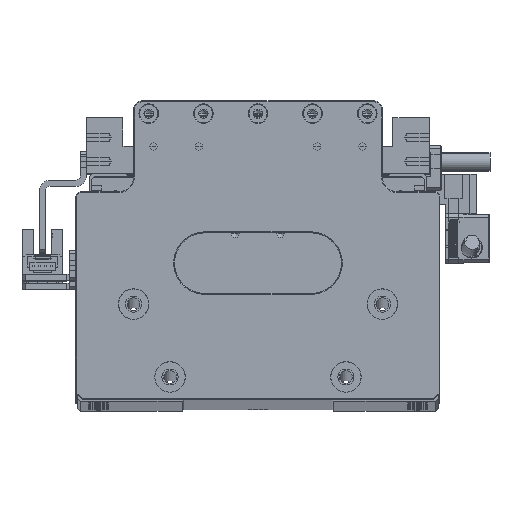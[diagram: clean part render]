
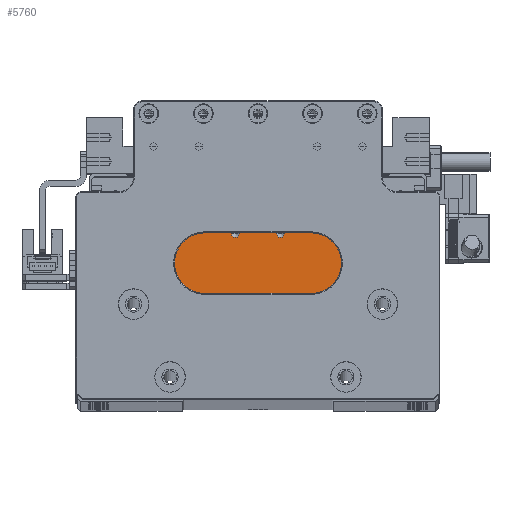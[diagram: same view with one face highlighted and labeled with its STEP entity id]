
A CAD part, top view. The second image highlights one B-rep face of the part: STEP entity #5760.
In plain terms, the highlighted planar face has unit normal (0, 0, 1).
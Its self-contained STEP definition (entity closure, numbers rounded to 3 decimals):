
#433 = ORIENTED_EDGE ( 'NONE', *, *, #34916, .T. ) ;
#437 = CARTESIAN_POINT ( 'NONE',  ( -29.8, 32.2, 66.894 ) ) ;
#939 = ORIENTED_EDGE ( 'NONE', *, *, #69099, .T. ) ;
#1672 = CIRCLE ( 'NONE', #108248, 1.25 ) ;
#1941 = DIRECTION ( 'NONE',  ( 0., 0., -1. ) ) ;
#2471 = CARTESIAN_POINT ( 'NONE',  ( 7.5, 32.2, 66.894 ) ) ;
#5604 = ORIENTED_EDGE ( 'NONE', *, *, #35089, .T. ) ;
#5722 = DIRECTION ( 'NONE',  ( 0., -1., 0. ) ) ;
#5760 = ADVANCED_FACE ( 'NONE', ( #65442, #41097, #89729 ), #25901, .T. ) ;
#5977 = VERTEX_POINT ( 'NONE', #19321 ) ;
#7257 = EDGE_LOOP ( 'NONE', ( #5604, #433, #94701, #21157, #73063, #56431, #939, #30576 ) ) ;
#7410 = CARTESIAN_POINT ( 'NONE',  ( 0., 40.2, 66.894 ) ) ;
#8407 = EDGE_CURVE ( 'NONE', #92155, #116785, #9850, .T. ) ;
#9192 = CARTESIAN_POINT ( 'NONE',  ( -29.8, 40.2, 66.894 ) ) ;
#9850 = CIRCLE ( 'NONE', #19468, 1.25 ) ;
#11309 = CARTESIAN_POINT ( 'NONE',  ( 6.25, 32.2, 66.894 ) ) ;
#11685 = DIRECTION ( 'NONE',  ( 1., 0., 0. ) ) ;
#12771 = VERTEX_POINT ( 'NONE', #40813 ) ;
#16349 = EDGE_CURVE ( 'NONE', #39140, #116623, #1672, .T. ) ;
#16951 = EDGE_CURVE ( 'NONE', #116785, #92155, #99140, .T. ) ;
#17191 = VERTEX_POINT ( 'NONE', #78846 ) ;
#18015 = VERTEX_POINT ( 'NONE', #59282 ) ;
#19321 = CARTESIAN_POINT ( 'NONE',  ( -18.5, 40., 66.894 ) ) ;
#19468 = AXIS2_PLACEMENT_3D ( 'NONE', #51270, #115368, #60469 ) ;
#19578 = CARTESIAN_POINT ( 'NONE',  ( -18.5, 40.2, 66.894 ) ) ;
#19724 = CARTESIAN_POINT ( 'NONE',  ( 29.8, 40.2, 66.894 ) ) ;
#20177 = CIRCLE ( 'NONE', #93906, 1.25 ) ;
#21157 = ORIENTED_EDGE ( 'NONE', *, *, #117066, .T. ) ;
#21676 = VECTOR ( 'NONE', #96251, 1000. ) ;
#23345 = CARTESIAN_POINT ( 'NONE',  ( -8.75, 32.2, 66.894 ) ) ;
#24300 = EDGE_CURVE ( 'NONE', #12771, #74633, #91861, .T. ) ;
#25901 = PLANE ( 'NONE',  #113750 ) ;
#26624 = ORIENTED_EDGE ( 'NONE', *, *, #16349, .T. ) ;
#27638 = CARTESIAN_POINT ( 'NONE',  ( 18.5, 40.2, 66.894 ) ) ;
#28914 = DIRECTION ( 'NONE',  ( 0., 1., 0. ) ) ;
#28953 = CARTESIAN_POINT ( 'NONE',  ( 8.75, 32.2, 66.894 ) ) ;
#30446 = CARTESIAN_POINT ( 'NONE',  ( 29.8, 0.2, 66.894 ) ) ;
#30576 = ORIENTED_EDGE ( 'NONE', *, *, #85952, .T. ) ;
#30774 = CARTESIAN_POINT ( 'NONE',  ( 0., 40., 66.894 ) ) ;
#32737 = LINE ( 'NONE', #67515, #78594 ) ;
#32843 = EDGE_LOOP ( 'NONE', ( #26624, #62385 ) ) ;
#33045 = DIRECTION ( 'NONE',  ( -1., 0., 0. ) ) ;
#34916 = EDGE_CURVE ( 'NONE', #5977, #17191, #43712, .T. ) ;
#35089 = EDGE_CURVE ( 'NONE', #70816, #5977, #50822, .T. ) ;
#35161 = DIRECTION ( 'NONE',  ( 1., 0., 0. ) ) ;
#39094 = VERTEX_POINT ( 'NONE', #437 ) ;
#39140 = VERTEX_POINT ( 'NONE', #28953 ) ;
#39209 = LINE ( 'NONE', #27638, #85034 ) ;
#40813 = CARTESIAN_POINT ( 'NONE',  ( -29.8, 0.2, 66.894 ) ) ;
#41097 = FACE_BOUND ( 'NONE', #32843, .T. ) ;
#41449 = CARTESIAN_POINT ( 'NONE',  ( -30., 0.2, 66.894 ) ) ;
#43712 = LINE ( 'NONE', #19578, #83789 ) ;
#44392 = DIRECTION ( 'NONE',  ( 0., 0., -1. ) ) ;
#47156 = LINE ( 'NONE', #19724, #68580 ) ;
#47977 = VECTOR ( 'NONE', #94853, 1000. ) ;
#50822 = LINE ( 'NONE', #30774, #47977 ) ;
#51270 = CARTESIAN_POINT ( 'NONE',  ( -7.5, 32.2, 66.894 ) ) ;
#56431 = ORIENTED_EDGE ( 'NONE', *, *, #107072, .T. ) ;
#56974 = CARTESIAN_POINT ( 'NONE',  ( -7.5, 32.2, 66.894 ) ) ;
#59021 = CARTESIAN_POINT ( 'NONE',  ( -6.25, 32.2, 66.894 ) ) ;
#59282 = CARTESIAN_POINT ( 'NONE',  ( 18.5, 32.2, 66.894 ) ) ;
#60469 = DIRECTION ( 'NONE',  ( 1., 0., 0. ) ) ;
#62385 = ORIENTED_EDGE ( 'NONE', *, *, #104412, .T. ) ;
#65276 = DIRECTION ( 'NONE',  ( 0., -1., 0. ) ) ;
#65442 = FACE_OUTER_BOUND ( 'NONE', #7257, .T. ) ;
#66161 = DIRECTION ( 'NONE',  ( 1., 0., 0. ) ) ;
#66687 = DIRECTION ( 'NONE',  ( 0., 0., -1. ) ) ;
#67515 = CARTESIAN_POINT ( 'NONE',  ( 0., 32.2, 66.894 ) ) ;
#68580 = VECTOR ( 'NONE', #28914, 1000. ) ;
#69099 = EDGE_CURVE ( 'NONE', #117936, #18015, #84610, .T. ) ;
#70816 = VERTEX_POINT ( 'NONE', #114404 ) ;
#73063 = ORIENTED_EDGE ( 'NONE', *, *, #24300, .T. ) ;
#74633 = VERTEX_POINT ( 'NONE', #30446 ) ;
#75622 = CARTESIAN_POINT ( 'NONE',  ( 29.8, 32.2, 66.894 ) ) ;
#76722 = DIRECTION ( 'NONE',  ( -1., 0., 0. ) ) ;
#78594 = VECTOR ( 'NONE', #76722, 1000. ) ;
#78846 = CARTESIAN_POINT ( 'NONE',  ( -18.5, 32.2, 66.894 ) ) ;
#82623 = EDGE_LOOP ( 'NONE', ( #88279, #85900 ) ) ;
#83789 = VECTOR ( 'NONE', #65276, 1000. ) ;
#84610 = LINE ( 'NONE', #97130, #106062 ) ;
#85034 = VECTOR ( 'NONE', #119023, 1000. ) ;
#85900 = ORIENTED_EDGE ( 'NONE', *, *, #16951, .T. ) ;
#85952 = EDGE_CURVE ( 'NONE', #18015, #70816, #39209, .T. ) ;
#88279 = ORIENTED_EDGE ( 'NONE', *, *, #8407, .T. ) ;
#89729 = FACE_BOUND ( 'NONE', #82623, .T. ) ;
#89992 = DIRECTION ( 'NONE',  ( 0., 0., 1. ) ) ;
#91861 = LINE ( 'NONE', #41449, #21676 ) ;
#92155 = VERTEX_POINT ( 'NONE', #59021 ) ;
#93906 = AXIS2_PLACEMENT_3D ( 'NONE', #99241, #44392, #108475 ) ;
#94701 = ORIENTED_EDGE ( 'NONE', *, *, #108295, .T. ) ;
#94853 = DIRECTION ( 'NONE',  ( -1., 0., 0. ) ) ;
#96251 = DIRECTION ( 'NONE',  ( 1., 0., 0. ) ) ;
#97012 = VECTOR ( 'NONE', #5722, 1000. ) ;
#97130 = CARTESIAN_POINT ( 'NONE',  ( 0., 32.2, 66.894 ) ) ;
#97493 = AXIS2_PLACEMENT_3D ( 'NONE', #56974, #1941, #66161 ) ;
#99140 = CIRCLE ( 'NONE', #97493, 1.25 ) ;
#99241 = CARTESIAN_POINT ( 'NONE',  ( 7.5, 32.2, 66.894 ) ) ;
#99934 = LINE ( 'NONE', #9192, #97012 ) ;
#104412 = EDGE_CURVE ( 'NONE', #116623, #39140, #20177, .T. ) ;
#106062 = VECTOR ( 'NONE', #33045, 1000. ) ;
#107072 = EDGE_CURVE ( 'NONE', #74633, #117936, #47156, .T. ) ;
#108248 = AXIS2_PLACEMENT_3D ( 'NONE', #2471, #66687, #11685 ) ;
#108295 = EDGE_CURVE ( 'NONE', #17191, #39094, #32737, .T. ) ;
#108475 = DIRECTION ( 'NONE',  ( 1., 0., 0. ) ) ;
#113750 = AXIS2_PLACEMENT_3D ( 'NONE', #7410, #89992, #35161 ) ;
#114404 = CARTESIAN_POINT ( 'NONE',  ( 18.5, 40., 66.894 ) ) ;
#115368 = DIRECTION ( 'NONE',  ( 0., 0., -1. ) ) ;
#116623 = VERTEX_POINT ( 'NONE', #11309 ) ;
#116785 = VERTEX_POINT ( 'NONE', #23345 ) ;
#117066 = EDGE_CURVE ( 'NONE', #39094, #12771, #99934, .T. ) ;
#117936 = VERTEX_POINT ( 'NONE', #75622 ) ;
#119023 = DIRECTION ( 'NONE',  ( 0., 1., 0. ) ) ;
